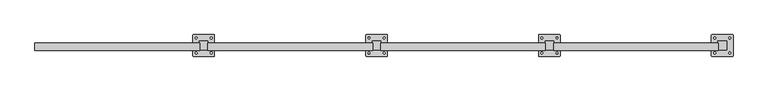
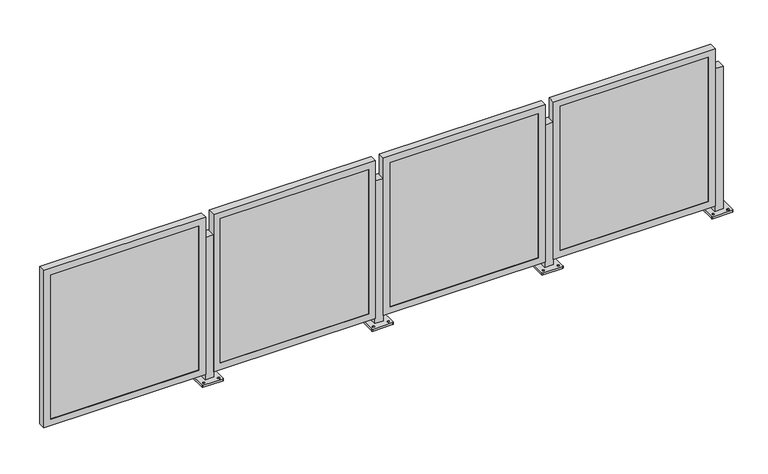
"""IFC4 building model written with IfcOpenShell, lengths in millimetres: railing geometry."""

from ifc_helpers import new_model, si_unit, frame, origin, place, context, project, spatial, polyline, circle_curve, outline, extrude, faceted_brep, source, transform, mapped, element, save
from ifc_brep_helpers import plane_surface, cylinder_surface, revolved_surface, advanced_brep


def railing_c032f412(model_context):
    return source(origin(), model_context, "Body", "SolidModel", [
        advanced_brep(
        [(-3126.5258502, -853.9049816, 914.4), (-3126.5258502, -904.7049816, 914.4), (-3075.7258502, -904.7049816, 914.4), (-3075.7258502, -853.9049816, 914.4), (-3164.6258503, -939.6299405, 0.0), (-3164.6258503, -818.9800226, 0.0), (-3161.4508222, -815.8049944, 0.0), (-3040.8008782, -815.8049944, 0.0), (-3037.62585, -818.9800226, 0.0), (-3037.62585, -939.6299405, 0.0), (-3040.8008782, -942.8049687, 0.0), (-3161.4508222, -942.8049687, 0.0), (-3145.5758377, -929.3112362, 0.0), (-3145.5758377, -918.1987238, 0.0), (-3145.5758486, -840.4112318, 0.0), (-3145.5758486, -829.2987502, 0.0), (-3056.6758368, -929.3112347, 0.0), (-3056.6758368, -918.198724, 0.0), (-3056.6758477, -840.4112303, 0.0), (-3056.6758477, -829.2987505, 0.0), (-3126.5258502, -853.9049816, 12.7), (-3126.5258502, -904.7049816, 12.7), (-3075.7258502, -904.7049816, 12.7), (-3075.7258502, -853.9049816, 12.7), (-3164.6258503, -939.6299405, 12.7), (-3161.4508222, -942.8049687, 12.7), (-3040.8008782, -942.8049687, 12.7), (-3037.62585, -939.6299405, 12.7), (-3037.62585, -818.9800226, 12.7), (-3040.8008782, -815.8049944, 12.7), (-3161.4508222, -815.8049944, 12.7), (-3164.6258503, -818.9800226, 12.7), (-3145.5758377, -929.3112362, 12.7), (-3145.5758377, -918.1987238, 12.7), (-3145.5758486, -840.4112318, 12.7), (-3145.5758486, -829.2987502, 12.7), (-3056.6758368, -929.3112347, 12.7), (-3056.6758368, -918.198724, 12.7), (-3056.6758477, -840.4112303, 12.7), (-3056.6758477, -829.2987505, 12.7)],
        [
            (0, 1),
            (1, 2),
            (2, 3),
            (3, 0),
            (4, 5),
            (5, 6, circle_curve(frame((-3161.4508222, -818.9800226, 0.0), z_axis=(0.0, 0.0, -1.0), x_axis=(0.0, 1.0, 0.0)), 3.1750282)),
            (6, 7),
            (7, 8, circle_curve(frame((-3040.8008782, -818.9800226, 0.0), z_axis=(0.0, 0.0, -1.0), x_axis=(0.0, 1.0, 0.0)), 3.1750282)),
            (8, 9),
            (9, 10, circle_curve(frame((-3040.8008782, -939.6299405, 0.0), z_axis=(0.0, 0.0, -1.0), x_axis=(0.0, 1.0, 0.0)), 3.1750282)),
            (10, 11),
            (11, 4, circle_curve(frame((-3161.4508222, -939.6299405, 0.0), z_axis=(0.0, 0.0, -1.0), x_axis=(0.0, 1.0, 0.0)), 3.1750282)),
            (12, 13, circle_curve(frame((-3145.5758377, -923.75498, 0.0), z_axis=(0.0, 0.0, 1.0), x_axis=(0.0, 1.0, 0.0)), 5.5562562)),
            (13, 12, circle_curve(frame((-3145.5758377, -923.75498, 0.0), z_axis=(0.0, 0.0, 1.0), x_axis=(0.0, 1.0, 0.0)), 5.5562562)),
            (14, 15, circle_curve(frame((-3145.5758486, -834.854991, 0.0), z_axis=(0.0, 0.0, 1.0), x_axis=(0.0, 1.0, 0.0)), 5.5562408)),
            (15, 14, circle_curve(frame((-3145.5758486, -834.854991, 0.0), z_axis=(0.0, 0.0, 1.0), x_axis=(0.0, 1.0, 0.0)), 5.5562408)),
            (16, 17, circle_curve(frame((-3056.6758368, -923.7549793, 0.0), z_axis=(0.0, 0.0, 1.0), x_axis=(0.0, 1.0, 0.0)), 5.5562553)),
            (17, 16, circle_curve(frame((-3056.6758368, -923.7549793, 0.0), z_axis=(0.0, 0.0, 1.0), x_axis=(0.0, 1.0, 0.0)), 5.5562553)),
            (18, 19, circle_curve(frame((-3056.6758477, -834.8549904, 0.0), z_axis=(0.0, 0.0, 1.0), x_axis=(0.0, 1.0, 0.0)), 5.5562399)),
            (19, 18, circle_curve(frame((-3056.6758477, -834.8549904, 0.0), z_axis=(0.0, 0.0, 1.0), x_axis=(0.0, 1.0, 0.0)), 5.5562399)),
            (0, 20),
            (20, 21),
            (21, 1),
            (21, 22),
            (22, 2),
            (22, 23),
            (23, 3),
            (23, 20),
            (24, 25, circle_curve(frame((-3161.4508222, -939.6299405, 12.7), z_axis=(0.0, 0.0, 1.0), x_axis=(0.0, 1.0, 0.0)), 3.1750282)),
            (25, 26),
            (26, 27, circle_curve(frame((-3040.8008782, -939.6299405, 12.7), z_axis=(0.0, 0.0, 1.0), x_axis=(0.0, 1.0, 0.0)), 3.1750282)),
            (27, 28),
            (28, 29, circle_curve(frame((-3040.8008782, -818.9800226, 12.7), z_axis=(0.0, 0.0, 1.0), x_axis=(0.0, 1.0, 0.0)), 3.1750282)),
            (29, 30),
            (30, 31, circle_curve(frame((-3161.4508222, -818.9800226, 12.7), z_axis=(0.0, 0.0, 1.0), x_axis=(0.0, 1.0, 0.0)), 3.1750282)),
            (31, 24),
            (32, 33, circle_curve(frame((-3145.5758377, -923.75498, 12.7), z_axis=(0.0, 0.0, -1.0), x_axis=(0.0, 1.0, 0.0)), 5.5562562)),
            (33, 32, circle_curve(frame((-3145.5758377, -923.75498, 12.7), z_axis=(0.0, 0.0, -1.0), x_axis=(0.0, 1.0, 0.0)), 5.5562562)),
            (34, 35, circle_curve(frame((-3145.5758486, -834.854991, 12.7), z_axis=(0.0, 0.0, -1.0), x_axis=(0.0, 1.0, 0.0)), 5.5562408)),
            (35, 34, circle_curve(frame((-3145.5758486, -834.854991, 12.7), z_axis=(0.0, 0.0, -1.0), x_axis=(0.0, 1.0, 0.0)), 5.5562408)),
            (36, 37, circle_curve(frame((-3056.6758368, -923.7549793, 12.7), z_axis=(0.0, 0.0, -1.0), x_axis=(0.0, 1.0, 0.0)), 5.5562553)),
            (37, 36, circle_curve(frame((-3056.6758368, -923.7549793, 12.7), z_axis=(0.0, 0.0, -1.0), x_axis=(0.0, 1.0, 0.0)), 5.5562553)),
            (38, 39, circle_curve(frame((-3056.6758477, -834.8549904, 12.7), z_axis=(0.0, 0.0, -1.0), x_axis=(0.0, 1.0, 0.0)), 5.5562399)),
            (39, 38, circle_curve(frame((-3056.6758477, -834.8549904, 12.7), z_axis=(0.0, 0.0, -1.0), x_axis=(0.0, 1.0, 0.0)), 5.5562399)),
            (24, 4),
            (11, 25),
            (10, 26),
            (9, 27),
            (8, 28),
            (7, 29),
            (6, 30),
            (5, 31),
            (32, 12),
            (13, 33),
            (34, 14),
            (15, 35),
            (36, 16),
            (17, 37),
            (38, 18),
            (19, 39),
        ],
        [
            plane_surface(frame((-3126.5258502, -904.7049816, 914.4), z_axis=(0.0, 0.0, 1.0), x_axis=(0.0, -1.0, 0.0))),
            plane_surface(frame((-3126.5258502, -904.7049816, 0.0), z_axis=(0.0, 0.0, -1.0), x_axis=(0.0, 1.0, 0.0))),
            plane_surface(frame((-3126.5258502, -853.9049816, 914.4), z_axis=(-1.0, 0.0, 0.0), x_axis=(0.0, 0.0, -1.0))),
            plane_surface(frame((-3126.5258502, -904.7049816, 914.4), z_axis=(0.0, -1.0, 0.0), x_axis=(0.0, 0.0, -1.0))),
            plane_surface(frame((-3075.7258502, -904.7049816, 914.4), z_axis=(1.0, 0.0, 0.0), x_axis=(0.0, 0.0, -1.0))),
            plane_surface(frame((-3075.7258502, -853.9049816, 914.4), z_axis=(0.0, 1.0, 0.0), x_axis=(0.0, 0.0, -1.0))),
            plane_surface(frame((-3161.4508222, -936.4549124, 12.7), z_axis=(0.0, 0.0, 1.0), x_axis=(-1.0, 0.0, 0.0))),
            cylinder_surface(frame((-3161.4508222, -939.6299405, 0.0), z_axis=(0.0, 0.0, 1.0), x_axis=(0.0, 1.0, 0.0)), 3.1750282),
            plane_surface(frame((-3161.4508222, -942.8049687, 12.7), z_axis=(1.1945386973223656e-12, -1.0, 0.0), x_axis=(0.0, 0.0, -1.0))),
            cylinder_surface(frame((-3040.8008782, -939.6299405, 0.0), z_axis=(0.0, 0.0, 1.0), x_axis=(0.0, 1.0, 0.0)), 3.1750282),
            plane_surface(frame((-3037.62585, -939.6299405, 12.7), z_axis=(1.0, 0.0, 0.0), x_axis=(0.0, 0.0, -1.0))),
            cylinder_surface(frame((-3040.8008782, -818.9800226, 0.0), z_axis=(0.0, 0.0, 1.0), x_axis=(0.0, 1.0, 0.0)), 3.1750282),
            plane_surface(frame((-3040.8008782, -815.8049944, 12.7), z_axis=(-1.1946088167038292e-12, 1.0, 0.0), x_axis=(0.0, 0.0, -1.0))),
            cylinder_surface(frame((-3161.4508222, -818.9800226, 0.0), z_axis=(0.0, 0.0, 1.0), x_axis=(0.0, 1.0, 0.0)), 3.1750282),
            plane_surface(frame((-3164.6258503, -818.9800226, 12.7), z_axis=(-1.0, 0.0, 0.0), x_axis=(0.0, 0.0, -1.0))),
            revolved_surface(polyline([(-3145.5758377, -918.1987238, 0.0), (-3145.5758377, -918.1987238, 12.7)]), (-3145.5758377, -923.75498, 0.0), (0.0, 0.0, -1.0)),
            revolved_surface(polyline([(-3145.5758486, -829.2987502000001, 0.0), (-3145.5758486, -829.2987502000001, 12.7)]), (-3145.5758486, -834.854991, 0.0), (0.0, 0.0, -1.0)),
            revolved_surface(polyline([(-3056.6758368, -918.198724, 0.0), (-3056.6758368, -918.198724, 12.7)]), (-3056.6758368, -923.7549793, 0.0), (0.0, 0.0, -1.0)),
            revolved_surface(polyline([(-3056.6758477, -829.2987505, 0.0), (-3056.6758477, -829.2987505, 12.7)]), (-3056.6758477, -834.8549904, 0.0), (0.0, 0.0, -1.0)),
        ],
        [
            (0, [[1, 2, 3, 4]]),
            (1, [[5, 6, 7, 8, 9, 10, 11, 12], [13, 14], [15, 16], [17, 18], [19, 20]]),
            (2, [[-1, 21, 22, 23]]),
            (3, [[-2, -23, 24, 25]]),
            (4, [[-3, -25, 26, 27]]),
            (5, [[-4, -27, 28, -21]]),
            (6, [[29, 30, 31, 32, 33, 34, 35, 36], [-22, -28, -26, -24], [37, 38], [39, 40], [41, 42], [43, 44]]),
            (7, [[-29, 45, -12, 46]]),
            (8, [[-30, -46, -11, 47]]),
            (9, [[-31, -47, -10, 48]]),
            (10, [[-32, -48, -9, 49]]),
            (11, [[-33, -49, -8, 50]]),
            (12, [[-34, -50, -7, 51]]),
            (13, [[-35, -51, -6, 52]]),
            (14, [[-36, -52, -5, -45]]),
            (15, [[-37, 53, -14, 54]]),
            (15, [[-38, -54, -13, -53]]),
            (16, [[-39, 55, -16, 56]]),
            (16, [[-40, -56, -15, -55]]),
            (17, [[-41, 57, -18, 58]]),
            (17, [[-42, -58, -17, -57]]),
            (18, [[-43, 59, -20, 60]]),
            (18, [[-44, -60, -19, -59]]),
        ],
    ),
        faceted_brep([(-4092.9303036, -907.4481816, 47.625), (-3124.5553036, -907.4481816, 47.625), (-3124.5553036, -907.4481816, 1044.575), (-4092.9303036, -907.4481816, 1044.575), (-4051.6553036, -907.4481816, 1003.3), (-3165.8303036, -907.4481816, 1003.3), (-3165.8303036, -907.4481816, 88.9), (-4051.6553036, -907.4481816, 88.9), (-4051.6553036, -904.7049816, 1003.3), (-4051.6553036, -904.7049816, 88.9), (-4092.9303036, -863.574885, 1044.575), (-4092.9303036, -863.574885, 47.625), (-4089.7553036, -863.574885, 1041.4), (-4089.7553036, -904.7049816, 1041.4), (-4089.7553036, -904.7049816, 50.8), (-4089.7553036, -863.574885, 50.8), (-3165.8303036, -904.7049816, 88.9), (-3124.5553036, -863.574885, 47.625), (-3127.7303036, -904.7049816, 50.8), (-3127.7303036, -863.574885, 50.8), (-3165.8303036, -904.7049816, 1003.3), (-3124.5553036, -863.574885, 1044.575), (-3127.7303036, -904.7049816, 1041.4), (-3127.7303036, -863.574885, 1041.4)], [[[0, 1, 2, 3], [4, 5, 6, 7]], [[8, 4, 7, 9]], [[3, 10, 11, 0]], [[12, 13, 14, 15]], [[9, 7, 6, 16]], [[0, 11, 17, 1]], [[15, 14, 18, 19]], [[16, 6, 5, 20]], [[1, 17, 21, 2]], [[19, 18, 22, 23]], [[20, 5, 4, 8]], [[10, 21, 17, 11], [15, 19, 23, 12]], [[2, 21, 10, 3]], [[13, 22, 18, 14], [9, 16, 20, 8]], [[23, 22, 13, 12]]]),
        extrude(outline(polyline([(-4089.7553036, -895.1799816), (-3127.7303036, -895.1799816), (-3127.7303036, -904.7049816), (-4089.7553036, -904.7049816), (-4089.7553036, -895.1799816)])), frame((0.0, 0.0, 50.8), z_axis=(0.0, 0.0, 1.0), x_axis=(1.0, 0.0, 0.0)), (0.0, 0.0, 1.0), 990.6),
        advanced_brep(
        [(-4142.5258502, -853.9049816, 914.4), (-4142.5258502, -904.7049816, 914.4), (-4091.7258502, -904.7049816, 914.4), (-4091.7258502, -853.9049816, 914.4), (-4180.6258503, -939.6299405, 0.0), (-4180.6258503, -818.9800226, 0.0), (-4177.4508222, -815.8049944, 0.0), (-4056.8008782, -815.8049944, 0.0), (-4053.62585, -818.9800226, 0.0), (-4053.62585, -939.6299405, 0.0), (-4056.8008782, -942.8049687, 0.0), (-4177.4508222, -942.8049687, 0.0), (-4161.5758377, -929.3112362, 0.0), (-4161.5758377, -918.1987238, 0.0), (-4161.5758486, -840.4112318, 0.0), (-4161.5758486, -829.2987502, 0.0), (-4072.6758368, -929.3112347, 0.0), (-4072.6758368, -918.198724, 0.0), (-4072.6758477, -840.4112303, 0.0), (-4072.6758477, -829.2987505, 0.0), (-4142.5258502, -853.9049816, 12.7), (-4142.5258502, -904.7049816, 12.7), (-4091.7258502, -904.7049816, 12.7), (-4091.7258502, -853.9049816, 12.7), (-4180.6258503, -939.6299405, 12.7), (-4177.4508222, -942.8049687, 12.7), (-4056.8008782, -942.8049687, 12.7), (-4053.62585, -939.6299405, 12.7), (-4053.62585, -818.9800226, 12.7), (-4056.8008782, -815.8049944, 12.7), (-4177.4508222, -815.8049944, 12.7), (-4180.6258503, -818.9800226, 12.7), (-4161.5758377, -929.3112362, 12.7), (-4161.5758377, -918.1987238, 12.7), (-4161.5758486, -840.4112318, 12.7), (-4161.5758486, -829.2987502, 12.7), (-4072.6758368, -929.3112347, 12.7), (-4072.6758368, -918.198724, 12.7), (-4072.6758477, -840.4112303, 12.7), (-4072.6758477, -829.2987505, 12.7)],
        [
            (0, 1),
            (1, 2),
            (2, 3),
            (3, 0),
            (4, 5),
            (5, 6, circle_curve(frame((-4177.4508222, -818.9800226, 0.0), z_axis=(0.0, 0.0, -1.0), x_axis=(0.0, 1.0, 0.0)), 3.1750282)),
            (6, 7),
            (7, 8, circle_curve(frame((-4056.8008782, -818.9800226, 0.0), z_axis=(0.0, 0.0, -1.0), x_axis=(0.0, 1.0, 0.0)), 3.1750282)),
            (8, 9),
            (9, 10, circle_curve(frame((-4056.8008782, -939.6299405, 0.0), z_axis=(0.0, 0.0, -1.0), x_axis=(0.0, 1.0, 0.0)), 3.1750282)),
            (10, 11),
            (11, 4, circle_curve(frame((-4177.4508222, -939.6299405, 0.0), z_axis=(0.0, 0.0, -1.0), x_axis=(0.0, 1.0, 0.0)), 3.1750282)),
            (12, 13, circle_curve(frame((-4161.5758377, -923.75498, 0.0), z_axis=(0.0, 0.0, 1.0), x_axis=(0.0, 1.0, 0.0)), 5.5562562)),
            (13, 12, circle_curve(frame((-4161.5758377, -923.75498, 0.0), z_axis=(0.0, 0.0, 1.0), x_axis=(0.0, 1.0, 0.0)), 5.5562562)),
            (14, 15, circle_curve(frame((-4161.5758486, -834.854991, 0.0), z_axis=(0.0, 0.0, 1.0), x_axis=(0.0, 1.0, 0.0)), 5.5562408)),
            (15, 14, circle_curve(frame((-4161.5758486, -834.854991, 0.0), z_axis=(0.0, 0.0, 1.0), x_axis=(0.0, 1.0, 0.0)), 5.5562408)),
            (16, 17, circle_curve(frame((-4072.6758368, -923.7549793, 0.0), z_axis=(0.0, 0.0, 1.0), x_axis=(0.0, 1.0, 0.0)), 5.5562553)),
            (17, 16, circle_curve(frame((-4072.6758368, -923.7549793, 0.0), z_axis=(0.0, 0.0, 1.0), x_axis=(0.0, 1.0, 0.0)), 5.5562553)),
            (18, 19, circle_curve(frame((-4072.6758477, -834.8549904, 0.0), z_axis=(0.0, 0.0, 1.0), x_axis=(0.0, 1.0, 0.0)), 5.5562399)),
            (19, 18, circle_curve(frame((-4072.6758477, -834.8549904, 0.0), z_axis=(0.0, 0.0, 1.0), x_axis=(0.0, 1.0, 0.0)), 5.5562399)),
            (0, 20),
            (20, 21),
            (21, 1),
            (21, 22),
            (22, 2),
            (22, 23),
            (23, 3),
            (23, 20),
            (24, 25, circle_curve(frame((-4177.4508222, -939.6299405, 12.7), z_axis=(0.0, 0.0, 1.0), x_axis=(0.0, 1.0, 0.0)), 3.1750282)),
            (25, 26),
            (26, 27, circle_curve(frame((-4056.8008782, -939.6299405, 12.7), z_axis=(0.0, 0.0, 1.0), x_axis=(0.0, 1.0, 0.0)), 3.1750282)),
            (27, 28),
            (28, 29, circle_curve(frame((-4056.8008782, -818.9800226, 12.7), z_axis=(0.0, 0.0, 1.0), x_axis=(0.0, 1.0, 0.0)), 3.1750282)),
            (29, 30),
            (30, 31, circle_curve(frame((-4177.4508222, -818.9800226, 12.7), z_axis=(0.0, 0.0, 1.0), x_axis=(0.0, 1.0, 0.0)), 3.1750282)),
            (31, 24),
            (32, 33, circle_curve(frame((-4161.5758377, -923.75498, 12.7), z_axis=(0.0, 0.0, -1.0), x_axis=(0.0, 1.0, 0.0)), 5.5562562)),
            (33, 32, circle_curve(frame((-4161.5758377, -923.75498, 12.7), z_axis=(0.0, 0.0, -1.0), x_axis=(0.0, 1.0, 0.0)), 5.5562562)),
            (34, 35, circle_curve(frame((-4161.5758486, -834.854991, 12.7), z_axis=(0.0, 0.0, -1.0), x_axis=(0.0, 1.0, 0.0)), 5.5562408)),
            (35, 34, circle_curve(frame((-4161.5758486, -834.854991, 12.7), z_axis=(0.0, 0.0, -1.0), x_axis=(0.0, 1.0, 0.0)), 5.5562408)),
            (36, 37, circle_curve(frame((-4072.6758368, -923.7549793, 12.7), z_axis=(0.0, 0.0, -1.0), x_axis=(0.0, 1.0, 0.0)), 5.5562553)),
            (37, 36, circle_curve(frame((-4072.6758368, -923.7549793, 12.7), z_axis=(0.0, 0.0, -1.0), x_axis=(0.0, 1.0, 0.0)), 5.5562553)),
            (38, 39, circle_curve(frame((-4072.6758477, -834.8549904, 12.7), z_axis=(0.0, 0.0, -1.0), x_axis=(0.0, 1.0, 0.0)), 5.5562399)),
            (39, 38, circle_curve(frame((-4072.6758477, -834.8549904, 12.7), z_axis=(0.0, 0.0, -1.0), x_axis=(0.0, 1.0, 0.0)), 5.5562399)),
            (24, 4),
            (11, 25),
            (10, 26),
            (9, 27),
            (8, 28),
            (7, 29),
            (6, 30),
            (5, 31),
            (32, 12),
            (13, 33),
            (34, 14),
            (15, 35),
            (36, 16),
            (17, 37),
            (38, 18),
            (19, 39),
        ],
        [
            plane_surface(frame((-4142.5258502, -904.7049816, 914.4), z_axis=(0.0, 0.0, 1.0), x_axis=(0.0, -1.0, 0.0))),
            plane_surface(frame((-4142.5258502, -904.7049816, 0.0), z_axis=(0.0, 0.0, -1.0), x_axis=(0.0, 1.0, 0.0))),
            plane_surface(frame((-4142.5258502, -853.9049816, 914.4), z_axis=(-1.0, 0.0, 0.0), x_axis=(0.0, 0.0, -1.0))),
            plane_surface(frame((-4142.5258502, -904.7049816, 914.4), z_axis=(0.0, -1.0, 0.0), x_axis=(0.0, 0.0, -1.0))),
            plane_surface(frame((-4091.7258502, -904.7049816, 914.4), z_axis=(1.0, 0.0, 0.0), x_axis=(0.0, 0.0, -1.0))),
            plane_surface(frame((-4091.7258502, -853.9049816, 914.4), z_axis=(0.0, 1.0, 0.0), x_axis=(0.0, 0.0, -1.0))),
            plane_surface(frame((-4177.4508222, -936.4549124, 12.7), z_axis=(0.0, 0.0, 1.0), x_axis=(-1.0, 0.0, 0.0))),
            cylinder_surface(frame((-4177.4508222, -939.6299405, 0.0), z_axis=(0.0, 0.0, 1.0), x_axis=(0.0, 1.0, 0.0)), 3.1750282),
            plane_surface(frame((-4177.4508222, -942.8049687, 12.7), z_axis=(1.1945386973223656e-12, -1.0, 0.0), x_axis=(0.0, 0.0, -1.0))),
            cylinder_surface(frame((-4056.8008782, -939.6299405, 0.0), z_axis=(0.0, 0.0, 1.0), x_axis=(0.0, 1.0, 0.0)), 3.1750282),
            plane_surface(frame((-4053.62585, -939.6299405, 12.7), z_axis=(1.0, 0.0, 0.0), x_axis=(0.0, 0.0, -1.0))),
            cylinder_surface(frame((-4056.8008782, -818.9800226, 0.0), z_axis=(0.0, 0.0, 1.0), x_axis=(0.0, 1.0, 0.0)), 3.1750282),
            plane_surface(frame((-4056.8008782, -815.8049944, 12.7), z_axis=(-1.1946088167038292e-12, 1.0, 0.0), x_axis=(0.0, 0.0, -1.0))),
            cylinder_surface(frame((-4177.4508222, -818.9800226, 0.0), z_axis=(0.0, 0.0, 1.0), x_axis=(0.0, 1.0, 0.0)), 3.1750282),
            plane_surface(frame((-4180.6258503, -818.9800226, 12.7), z_axis=(-1.0, 0.0, 0.0), x_axis=(0.0, 0.0, -1.0))),
            revolved_surface(polyline([(-4161.5758377, -918.1987238, 0.0), (-4161.5758377, -918.1987238, 12.7)]), (-4161.5758377, -923.75498, 0.0), (0.0, 0.0, -1.0)),
            revolved_surface(polyline([(-4161.5758486, -829.2987502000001, 0.0), (-4161.5758486, -829.2987502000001, 12.7)]), (-4161.5758486, -834.854991, 0.0), (0.0, 0.0, -1.0)),
            revolved_surface(polyline([(-4072.6758368, -918.198724, 0.0), (-4072.6758368, -918.198724, 12.7)]), (-4072.6758368, -923.7549793, 0.0), (0.0, 0.0, -1.0)),
            revolved_surface(polyline([(-4072.6758477, -829.2987505, 0.0), (-4072.6758477, -829.2987505, 12.7)]), (-4072.6758477, -834.8549904, 0.0), (0.0, 0.0, -1.0)),
        ],
        [
            (0, [[1, 2, 3, 4]]),
            (1, [[5, 6, 7, 8, 9, 10, 11, 12], [13, 14], [15, 16], [17, 18], [19, 20]]),
            (2, [[-1, 21, 22, 23]]),
            (3, [[-2, -23, 24, 25]]),
            (4, [[-3, -25, 26, 27]]),
            (5, [[-4, -27, 28, -21]]),
            (6, [[29, 30, 31, 32, 33, 34, 35, 36], [-22, -28, -26, -24], [37, 38], [39, 40], [41, 42], [43, 44]]),
            (7, [[-29, 45, -12, 46]]),
            (8, [[-30, -46, -11, 47]]),
            (9, [[-31, -47, -10, 48]]),
            (10, [[-32, -48, -9, 49]]),
            (11, [[-33, -49, -8, 50]]),
            (12, [[-34, -50, -7, 51]]),
            (13, [[-35, -51, -6, 52]]),
            (14, [[-36, -52, -5, -45]]),
            (15, [[-37, 53, -14, 54]]),
            (15, [[-38, -54, -13, -53]]),
            (16, [[-39, 55, -16, 56]]),
            (16, [[-40, -56, -15, -55]]),
            (17, [[-41, 57, -18, 58]]),
            (17, [[-42, -58, -17, -57]]),
            (18, [[-43, 59, -20, 60]]),
            (18, [[-44, -60, -19, -59]]),
        ],
    ),
        faceted_brep([(-5108.9303036, -907.4481816, 47.625), (-4140.5553036, -907.4481816, 47.625), (-4140.5553036, -907.4481816, 1044.575), (-5108.9303036, -907.4481816, 1044.575), (-5067.6553036, -907.4481816, 1003.3), (-4181.8303036, -907.4481816, 1003.3), (-4181.8303036, -907.4481816, 88.9), (-5067.6553036, -907.4481816, 88.9), (-5067.6553036, -904.7049816, 1003.3), (-5067.6553036, -904.7049816, 88.9), (-5108.9303036, -863.574885, 1044.575), (-5108.9303036, -863.574885, 47.625), (-5105.7553036, -863.574885, 1041.4), (-5105.7553036, -904.7049816, 1041.4), (-5105.7553036, -904.7049816, 50.8), (-5105.7553036, -863.574885, 50.8), (-4181.8303036, -904.7049816, 88.9), (-4140.5553036, -863.574885, 47.625), (-4143.7303036, -904.7049816, 50.8), (-4143.7303036, -863.574885, 50.8), (-4181.8303036, -904.7049816, 1003.3), (-4140.5553036, -863.574885, 1044.575), (-4143.7303036, -904.7049816, 1041.4), (-4143.7303036, -863.574885, 1041.4)], [[[0, 1, 2, 3], [4, 5, 6, 7]], [[8, 4, 7, 9]], [[3, 10, 11, 0]], [[12, 13, 14, 15]], [[9, 7, 6, 16]], [[0, 11, 17, 1]], [[15, 14, 18, 19]], [[16, 6, 5, 20]], [[1, 17, 21, 2]], [[19, 18, 22, 23]], [[20, 5, 4, 8]], [[10, 21, 17, 11], [15, 19, 23, 12]], [[2, 21, 10, 3]], [[13, 22, 18, 14], [9, 16, 20, 8]], [[23, 22, 13, 12]]]),
        extrude(outline(polyline([(-5105.7553036, -895.1799816), (-4143.7303036, -895.1799816), (-4143.7303036, -904.7049816), (-5105.7553036, -904.7049816), (-5105.7553036, -895.1799816)])), frame((0.0, 0.0, 50.8), z_axis=(0.0, 0.0, 1.0), x_axis=(1.0, 0.0, 0.0)), (0.0, 0.0, 1.0), 990.6),
        advanced_brep(
        [(-5158.5258502, -853.9049816, 914.4), (-5158.5258502, -904.7049816, 914.4), (-5107.7258502, -904.7049816, 914.4), (-5107.7258502, -853.9049816, 914.4), (-5196.6258503, -939.6299405, 0.0), (-5196.6258503, -818.9800226, 0.0), (-5193.4508222, -815.8049944, 0.0), (-5072.8008782, -815.8049944, 0.0), (-5069.62585, -818.9800226, 0.0), (-5069.62585, -939.6299405, 0.0), (-5072.8008782, -942.8049687, 0.0), (-5193.4508222, -942.8049687, 0.0), (-5177.5758377, -929.3112362, 0.0), (-5177.5758377, -918.1987238, 0.0), (-5177.5758486, -840.4112318, 0.0), (-5177.5758486, -829.2987502, 0.0), (-5088.6758368, -929.3112347, 0.0), (-5088.6758368, -918.198724, 0.0), (-5088.6758477, -840.4112303, 0.0), (-5088.6758477, -829.2987505, 0.0), (-5158.5258502, -853.9049816, 12.7), (-5158.5258502, -904.7049816, 12.7), (-5107.7258502, -904.7049816, 12.7), (-5107.7258502, -853.9049816, 12.7), (-5196.6258503, -939.6299405, 12.7), (-5193.4508222, -942.8049687, 12.7), (-5072.8008782, -942.8049687, 12.7), (-5069.62585, -939.6299405, 12.7), (-5069.62585, -818.9800226, 12.7), (-5072.8008782, -815.8049944, 12.7), (-5193.4508222, -815.8049944, 12.7), (-5196.6258503, -818.9800226, 12.7), (-5177.5758377, -929.3112362, 12.7), (-5177.5758377, -918.1987238, 12.7), (-5177.5758486, -840.4112318, 12.7), (-5177.5758486, -829.2987502, 12.7), (-5088.6758368, -929.3112347, 12.7), (-5088.6758368, -918.198724, 12.7), (-5088.6758477, -840.4112303, 12.7), (-5088.6758477, -829.2987505, 12.7)],
        [
            (0, 1),
            (1, 2),
            (2, 3),
            (3, 0),
            (4, 5),
            (5, 6, circle_curve(frame((-5193.4508222, -818.9800226, 0.0), z_axis=(0.0, 0.0, -1.0), x_axis=(0.0, 1.0, 0.0)), 3.1750282)),
            (6, 7),
            (7, 8, circle_curve(frame((-5072.8008782, -818.9800226, 0.0), z_axis=(0.0, 0.0, -1.0), x_axis=(0.0, 1.0, 0.0)), 3.1750282)),
            (8, 9),
            (9, 10, circle_curve(frame((-5072.8008782, -939.6299405, 0.0), z_axis=(0.0, 0.0, -1.0), x_axis=(0.0, 1.0, 0.0)), 3.1750282)),
            (10, 11),
            (11, 4, circle_curve(frame((-5193.4508222, -939.6299405, 0.0), z_axis=(0.0, 0.0, -1.0), x_axis=(0.0, 1.0, 0.0)), 3.1750282)),
            (12, 13, circle_curve(frame((-5177.5758377, -923.75498, 0.0), z_axis=(0.0, 0.0, 1.0), x_axis=(0.0, 1.0, 0.0)), 5.5562562)),
            (13, 12, circle_curve(frame((-5177.5758377, -923.75498, 0.0), z_axis=(0.0, 0.0, 1.0), x_axis=(0.0, 1.0, 0.0)), 5.5562562)),
            (14, 15, circle_curve(frame((-5177.5758486, -834.854991, 0.0), z_axis=(0.0, 0.0, 1.0), x_axis=(0.0, 1.0, 0.0)), 5.5562408)),
            (15, 14, circle_curve(frame((-5177.5758486, -834.854991, 0.0), z_axis=(0.0, 0.0, 1.0), x_axis=(0.0, 1.0, 0.0)), 5.5562408)),
            (16, 17, circle_curve(frame((-5088.6758368, -923.7549793, 0.0), z_axis=(0.0, 0.0, 1.0), x_axis=(0.0, 1.0, 0.0)), 5.5562553)),
            (17, 16, circle_curve(frame((-5088.6758368, -923.7549793, 0.0), z_axis=(0.0, 0.0, 1.0), x_axis=(0.0, 1.0, 0.0)), 5.5562553)),
            (18, 19, circle_curve(frame((-5088.6758477, -834.8549904, 0.0), z_axis=(0.0, 0.0, 1.0), x_axis=(0.0, 1.0, 0.0)), 5.5562399)),
            (19, 18, circle_curve(frame((-5088.6758477, -834.8549904, 0.0), z_axis=(0.0, 0.0, 1.0), x_axis=(0.0, 1.0, 0.0)), 5.5562399)),
            (0, 20),
            (20, 21),
            (21, 1),
            (21, 22),
            (22, 2),
            (22, 23),
            (23, 3),
            (23, 20),
            (24, 25, circle_curve(frame((-5193.4508222, -939.6299405, 12.7), z_axis=(0.0, 0.0, 1.0), x_axis=(0.0, 1.0, 0.0)), 3.1750282)),
            (25, 26),
            (26, 27, circle_curve(frame((-5072.8008782, -939.6299405, 12.7), z_axis=(0.0, 0.0, 1.0), x_axis=(0.0, 1.0, 0.0)), 3.1750282)),
            (27, 28),
            (28, 29, circle_curve(frame((-5072.8008782, -818.9800226, 12.7), z_axis=(0.0, 0.0, 1.0), x_axis=(0.0, 1.0, 0.0)), 3.1750282)),
            (29, 30),
            (30, 31, circle_curve(frame((-5193.4508222, -818.9800226, 12.7), z_axis=(0.0, 0.0, 1.0), x_axis=(0.0, 1.0, 0.0)), 3.1750282)),
            (31, 24),
            (32, 33, circle_curve(frame((-5177.5758377, -923.75498, 12.7), z_axis=(0.0, 0.0, -1.0), x_axis=(0.0, 1.0, 0.0)), 5.5562562)),
            (33, 32, circle_curve(frame((-5177.5758377, -923.75498, 12.7), z_axis=(0.0, 0.0, -1.0), x_axis=(0.0, 1.0, 0.0)), 5.5562562)),
            (34, 35, circle_curve(frame((-5177.5758486, -834.854991, 12.7), z_axis=(0.0, 0.0, -1.0), x_axis=(0.0, 1.0, 0.0)), 5.5562408)),
            (35, 34, circle_curve(frame((-5177.5758486, -834.854991, 12.7), z_axis=(0.0, 0.0, -1.0), x_axis=(0.0, 1.0, 0.0)), 5.5562408)),
            (36, 37, circle_curve(frame((-5088.6758368, -923.7549793, 12.7), z_axis=(0.0, 0.0, -1.0), x_axis=(0.0, 1.0, 0.0)), 5.5562553)),
            (37, 36, circle_curve(frame((-5088.6758368, -923.7549793, 12.7), z_axis=(0.0, 0.0, -1.0), x_axis=(0.0, 1.0, 0.0)), 5.5562553)),
            (38, 39, circle_curve(frame((-5088.6758477, -834.8549904, 12.7), z_axis=(0.0, 0.0, -1.0), x_axis=(0.0, 1.0, 0.0)), 5.5562399)),
            (39, 38, circle_curve(frame((-5088.6758477, -834.8549904, 12.7), z_axis=(0.0, 0.0, -1.0), x_axis=(0.0, 1.0, 0.0)), 5.5562399)),
            (24, 4),
            (11, 25),
            (10, 26),
            (9, 27),
            (8, 28),
            (7, 29),
            (6, 30),
            (5, 31),
            (32, 12),
            (13, 33),
            (34, 14),
            (15, 35),
            (36, 16),
            (17, 37),
            (38, 18),
            (19, 39),
        ],
        [
            plane_surface(frame((-5158.5258502, -904.7049816, 914.4), z_axis=(0.0, 0.0, 1.0), x_axis=(0.0, -1.0, 0.0))),
            plane_surface(frame((-5158.5258502, -904.7049816, 0.0), z_axis=(0.0, 0.0, -1.0), x_axis=(0.0, 1.0, 0.0))),
            plane_surface(frame((-5158.5258502, -853.9049816, 914.4), z_axis=(-1.0, 0.0, 0.0), x_axis=(0.0, 0.0, -1.0))),
            plane_surface(frame((-5158.5258502, -904.7049816, 914.4), z_axis=(0.0, -1.0, 0.0), x_axis=(0.0, 0.0, -1.0))),
            plane_surface(frame((-5107.7258502, -904.7049816, 914.4), z_axis=(1.0, 0.0, 0.0), x_axis=(0.0, 0.0, -1.0))),
            plane_surface(frame((-5107.7258502, -853.9049816, 914.4), z_axis=(0.0, 1.0, 0.0), x_axis=(0.0, 0.0, -1.0))),
            plane_surface(frame((-5193.4508222, -936.4549124, 12.7), z_axis=(0.0, 0.0, 1.0), x_axis=(-1.0, 0.0, 0.0))),
            cylinder_surface(frame((-5193.4508222, -939.6299405, 0.0), z_axis=(0.0, 0.0, 1.0), x_axis=(0.0, 1.0, 0.0)), 3.1750282),
            plane_surface(frame((-5193.4508222, -942.8049687, 12.7), z_axis=(1.1945386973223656e-12, -1.0, 0.0), x_axis=(0.0, 0.0, -1.0))),
            cylinder_surface(frame((-5072.8008782, -939.6299405, 0.0), z_axis=(0.0, 0.0, 1.0), x_axis=(0.0, 1.0, 0.0)), 3.1750282),
            plane_surface(frame((-5069.62585, -939.6299405, 12.7), z_axis=(1.0, 0.0, 0.0), x_axis=(0.0, 0.0, -1.0))),
            cylinder_surface(frame((-5072.8008782, -818.9800226, 0.0), z_axis=(0.0, 0.0, 1.0), x_axis=(0.0, 1.0, 0.0)), 3.1750282),
            plane_surface(frame((-5072.8008782, -815.8049944, 12.7), z_axis=(-1.1946088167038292e-12, 1.0, 0.0), x_axis=(0.0, 0.0, -1.0))),
            cylinder_surface(frame((-5193.4508222, -818.9800226, 0.0), z_axis=(0.0, 0.0, 1.0), x_axis=(0.0, 1.0, 0.0)), 3.1750282),
            plane_surface(frame((-5196.6258503, -818.9800226, 12.7), z_axis=(-1.0, 0.0, 0.0), x_axis=(0.0, 0.0, -1.0))),
            revolved_surface(polyline([(-5177.5758377, -918.1987238, 0.0), (-5177.5758377, -918.1987238, 12.7)]), (-5177.5758377, -923.75498, 0.0), (0.0, 0.0, -1.0)),
            revolved_surface(polyline([(-5177.5758486, -829.2987502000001, 0.0), (-5177.5758486, -829.2987502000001, 12.7)]), (-5177.5758486, -834.854991, 0.0), (0.0, 0.0, -1.0)),
            revolved_surface(polyline([(-5088.6758368, -918.198724, 0.0), (-5088.6758368, -918.198724, 12.7)]), (-5088.6758368, -923.7549793, 0.0), (0.0, 0.0, -1.0)),
            revolved_surface(polyline([(-5088.6758477, -829.2987505, 0.0), (-5088.6758477, -829.2987505, 12.7)]), (-5088.6758477, -834.8549904, 0.0), (0.0, 0.0, -1.0)),
        ],
        [
            (0, [[1, 2, 3, 4]]),
            (1, [[5, 6, 7, 8, 9, 10, 11, 12], [13, 14], [15, 16], [17, 18], [19, 20]]),
            (2, [[-1, 21, 22, 23]]),
            (3, [[-2, -23, 24, 25]]),
            (4, [[-3, -25, 26, 27]]),
            (5, [[-4, -27, 28, -21]]),
            (6, [[29, 30, 31, 32, 33, 34, 35, 36], [-22, -28, -26, -24], [37, 38], [39, 40], [41, 42], [43, 44]]),
            (7, [[-29, 45, -12, 46]]),
            (8, [[-30, -46, -11, 47]]),
            (9, [[-31, -47, -10, 48]]),
            (10, [[-32, -48, -9, 49]]),
            (11, [[-33, -49, -8, 50]]),
            (12, [[-34, -50, -7, 51]]),
            (13, [[-35, -51, -6, 52]]),
            (14, [[-36, -52, -5, -45]]),
            (15, [[-37, 53, -14, 54]]),
            (15, [[-38, -54, -13, -53]]),
            (16, [[-39, 55, -16, 56]]),
            (16, [[-40, -56, -15, -55]]),
            (17, [[-41, 57, -18, 58]]),
            (17, [[-42, -58, -17, -57]]),
            (18, [[-43, 59, -20, 60]]),
            (18, [[-44, -60, -19, -59]]),
        ],
    ),
        faceted_brep([(-6124.9303036, -907.4481816, 47.625), (-5156.5553036, -907.4481816, 47.625), (-5156.5553036, -907.4481816, 1044.575), (-6124.9303036, -907.4481816, 1044.575), (-6083.6553036, -907.4481816, 1003.3), (-5197.8303036, -907.4481816, 1003.3), (-5197.8303036, -907.4481816, 88.9), (-6083.6553036, -907.4481816, 88.9), (-6083.6553036, -904.7049816, 1003.3), (-6083.6553036, -904.7049816, 88.9), (-6124.9303036, -863.574885, 1044.575), (-6124.9303036, -863.574885, 47.625), (-6121.7553036, -863.574885, 1041.4), (-6121.7553036, -904.7049816, 1041.4), (-6121.7553036, -904.7049816, 50.8), (-6121.7553036, -863.574885, 50.8), (-5197.8303036, -904.7049816, 88.9), (-5156.5553036, -863.574885, 47.625), (-5159.7303036, -904.7049816, 50.8), (-5159.7303036, -863.574885, 50.8), (-5197.8303036, -904.7049816, 1003.3), (-5156.5553036, -863.574885, 1044.575), (-5159.7303036, -904.7049816, 1041.4), (-5159.7303036, -863.574885, 1041.4)], [[[0, 1, 2, 3], [4, 5, 6, 7]], [[8, 4, 7, 9]], [[3, 10, 11, 0]], [[12, 13, 14, 15]], [[9, 7, 6, 16]], [[0, 11, 17, 1]], [[15, 14, 18, 19]], [[16, 6, 5, 20]], [[1, 17, 21, 2]], [[19, 18, 22, 23]], [[20, 5, 4, 8]], [[10, 21, 17, 11], [15, 19, 23, 12]], [[2, 21, 10, 3]], [[13, 22, 18, 14], [9, 16, 20, 8]], [[23, 22, 13, 12]]]),
        extrude(outline(polyline([(-6121.7553036, -895.1799816), (-5159.7303036, -895.1799816), (-5159.7303036, -904.7049816), (-6121.7553036, -904.7049816), (-6121.7553036, -895.1799816)])), frame((0.0, 0.0, 50.8), z_axis=(0.0, 0.0, 1.0), x_axis=(1.0, 0.0, 0.0)), (0.0, 0.0, 1.0), 990.6),
        advanced_brep(
        [(-6174.5258502, -853.9049816, 914.4), (-6174.5258502, -904.7049816, 914.4), (-6123.7258502, -904.7049816, 914.4), (-6123.7258502, -853.9049816, 914.4), (-6212.6258503, -939.6299405, 0.0), (-6212.6258503, -818.9800226, 0.0), (-6209.4508222, -815.8049944, 0.0), (-6088.8008782, -815.8049944, 0.0), (-6085.62585, -818.9800226, 0.0), (-6085.62585, -939.6299405, 0.0), (-6088.8008782, -942.8049687, 0.0), (-6209.4508222, -942.8049687, 0.0), (-6193.5758377, -929.3112362, 0.0), (-6193.5758377, -918.1987238, 0.0), (-6193.5758486, -840.4112318, 0.0), (-6193.5758486, -829.2987502, 0.0), (-6104.6758368, -929.3112347, 0.0), (-6104.6758368, -918.198724, 0.0), (-6104.6758477, -840.4112303, 0.0), (-6104.6758477, -829.2987505, 0.0), (-6174.5258502, -853.9049816, 12.7), (-6174.5258502, -904.7049816, 12.7), (-6123.7258502, -904.7049816, 12.7), (-6123.7258502, -853.9049816, 12.7), (-6212.6258503, -939.6299405, 12.7), (-6209.4508222, -942.8049687, 12.7), (-6088.8008782, -942.8049687, 12.7), (-6085.62585, -939.6299405, 12.7), (-6085.62585, -818.9800226, 12.7), (-6088.8008782, -815.8049944, 12.7), (-6209.4508222, -815.8049944, 12.7), (-6212.6258503, -818.9800226, 12.7), (-6193.5758377, -929.3112362, 12.7), (-6193.5758377, -918.1987238, 12.7), (-6193.5758486, -840.4112318, 12.7), (-6193.5758486, -829.2987502, 12.7), (-6104.6758368, -929.3112347, 12.7), (-6104.6758368, -918.198724, 12.7), (-6104.6758477, -840.4112303, 12.7), (-6104.6758477, -829.2987505, 12.7)],
        [
            (0, 1),
            (1, 2),
            (2, 3),
            (3, 0),
            (4, 5),
            (5, 6, circle_curve(frame((-6209.4508222, -818.9800226, 0.0), z_axis=(0.0, 0.0, -1.0), x_axis=(0.0, 1.0, 0.0)), 3.1750282)),
            (6, 7),
            (7, 8, circle_curve(frame((-6088.8008782, -818.9800226, 0.0), z_axis=(0.0, 0.0, -1.0), x_axis=(0.0, 1.0, 0.0)), 3.1750282)),
            (8, 9),
            (9, 10, circle_curve(frame((-6088.8008782, -939.6299405, 0.0), z_axis=(0.0, 0.0, -1.0), x_axis=(0.0, 1.0, 0.0)), 3.1750282)),
            (10, 11),
            (11, 4, circle_curve(frame((-6209.4508222, -939.6299405, 0.0), z_axis=(0.0, 0.0, -1.0), x_axis=(0.0, 1.0, 0.0)), 3.1750282)),
            (12, 13, circle_curve(frame((-6193.5758377, -923.75498, 0.0), z_axis=(0.0, 0.0, 1.0), x_axis=(0.0, 1.0, 0.0)), 5.5562562)),
            (13, 12, circle_curve(frame((-6193.5758377, -923.75498, 0.0), z_axis=(0.0, 0.0, 1.0), x_axis=(0.0, 1.0, 0.0)), 5.5562562)),
            (14, 15, circle_curve(frame((-6193.5758486, -834.854991, 0.0), z_axis=(0.0, 0.0, 1.0), x_axis=(0.0, 1.0, 0.0)), 5.5562408)),
            (15, 14, circle_curve(frame((-6193.5758486, -834.854991, 0.0), z_axis=(0.0, 0.0, 1.0), x_axis=(0.0, 1.0, 0.0)), 5.5562408)),
            (16, 17, circle_curve(frame((-6104.6758368, -923.7549793, 0.0), z_axis=(0.0, 0.0, 1.0), x_axis=(0.0, 1.0, 0.0)), 5.5562553)),
            (17, 16, circle_curve(frame((-6104.6758368, -923.7549793, 0.0), z_axis=(0.0, 0.0, 1.0), x_axis=(0.0, 1.0, 0.0)), 5.5562553)),
            (18, 19, circle_curve(frame((-6104.6758477, -834.8549904, 0.0), z_axis=(0.0, 0.0, 1.0), x_axis=(0.0, 1.0, 0.0)), 5.5562399)),
            (19, 18, circle_curve(frame((-6104.6758477, -834.8549904, 0.0), z_axis=(0.0, 0.0, 1.0), x_axis=(0.0, 1.0, 0.0)), 5.5562399)),
            (0, 20),
            (20, 21),
            (21, 1),
            (21, 22),
            (22, 2),
            (22, 23),
            (23, 3),
            (23, 20),
            (24, 25, circle_curve(frame((-6209.4508222, -939.6299405, 12.7), z_axis=(0.0, 0.0, 1.0), x_axis=(0.0, 1.0, 0.0)), 3.1750282)),
            (25, 26),
            (26, 27, circle_curve(frame((-6088.8008782, -939.6299405, 12.7), z_axis=(0.0, 0.0, 1.0), x_axis=(0.0, 1.0, 0.0)), 3.1750282)),
            (27, 28),
            (28, 29, circle_curve(frame((-6088.8008782, -818.9800226, 12.7), z_axis=(0.0, 0.0, 1.0), x_axis=(0.0, 1.0, 0.0)), 3.1750282)),
            (29, 30),
            (30, 31, circle_curve(frame((-6209.4508222, -818.9800226, 12.7), z_axis=(0.0, 0.0, 1.0), x_axis=(0.0, 1.0, 0.0)), 3.1750282)),
            (31, 24),
            (32, 33, circle_curve(frame((-6193.5758377, -923.75498, 12.7), z_axis=(0.0, 0.0, -1.0), x_axis=(0.0, 1.0, 0.0)), 5.5562562)),
            (33, 32, circle_curve(frame((-6193.5758377, -923.75498, 12.7), z_axis=(0.0, 0.0, -1.0), x_axis=(0.0, 1.0, 0.0)), 5.5562562)),
            (34, 35, circle_curve(frame((-6193.5758486, -834.854991, 12.7), z_axis=(0.0, 0.0, -1.0), x_axis=(0.0, 1.0, 0.0)), 5.5562408)),
            (35, 34, circle_curve(frame((-6193.5758486, -834.854991, 12.7), z_axis=(0.0, 0.0, -1.0), x_axis=(0.0, 1.0, 0.0)), 5.5562408)),
            (36, 37, circle_curve(frame((-6104.6758368, -923.7549793, 12.7), z_axis=(0.0, 0.0, -1.0), x_axis=(0.0, 1.0, 0.0)), 5.5562553)),
            (37, 36, circle_curve(frame((-6104.6758368, -923.7549793, 12.7), z_axis=(0.0, 0.0, -1.0), x_axis=(0.0, 1.0, 0.0)), 5.5562553)),
            (38, 39, circle_curve(frame((-6104.6758477, -834.8549904, 12.7), z_axis=(0.0, 0.0, -1.0), x_axis=(0.0, 1.0, 0.0)), 5.5562399)),
            (39, 38, circle_curve(frame((-6104.6758477, -834.8549904, 12.7), z_axis=(0.0, 0.0, -1.0), x_axis=(0.0, 1.0, 0.0)), 5.5562399)),
            (24, 4),
            (11, 25),
            (10, 26),
            (9, 27),
            (8, 28),
            (7, 29),
            (6, 30),
            (5, 31),
            (32, 12),
            (13, 33),
            (34, 14),
            (15, 35),
            (36, 16),
            (17, 37),
            (38, 18),
            (19, 39),
        ],
        [
            plane_surface(frame((-6174.5258502, -904.7049816, 914.4), z_axis=(0.0, 0.0, 1.0), x_axis=(0.0, -1.0, 0.0))),
            plane_surface(frame((-6174.5258502, -904.7049816, 0.0), z_axis=(0.0, 0.0, -1.0), x_axis=(0.0, 1.0, 0.0))),
            plane_surface(frame((-6174.5258502, -853.9049816, 914.4), z_axis=(-1.0, 0.0, 0.0), x_axis=(0.0, 0.0, -1.0))),
            plane_surface(frame((-6174.5258502, -904.7049816, 914.4), z_axis=(0.0, -1.0, 0.0), x_axis=(0.0, 0.0, -1.0))),
            plane_surface(frame((-6123.7258502, -904.7049816, 914.4), z_axis=(1.0, 0.0, 0.0), x_axis=(0.0, 0.0, -1.0))),
            plane_surface(frame((-6123.7258502, -853.9049816, 914.4), z_axis=(0.0, 1.0, 0.0), x_axis=(0.0, 0.0, -1.0))),
            plane_surface(frame((-6209.4508222, -936.4549124, 12.7), z_axis=(0.0, 0.0, 1.0), x_axis=(-1.0, 0.0, 0.0))),
            cylinder_surface(frame((-6209.4508222, -939.6299405, 0.0), z_axis=(0.0, 0.0, 1.0), x_axis=(0.0, 1.0, 0.0)), 3.1750282),
            plane_surface(frame((-6209.4508222, -942.8049687, 12.7), z_axis=(1.1945386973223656e-12, -1.0, 0.0), x_axis=(0.0, 0.0, -1.0))),
            cylinder_surface(frame((-6088.8008782, -939.6299405, 0.0), z_axis=(0.0, 0.0, 1.0), x_axis=(0.0, 1.0, 0.0)), 3.1750282),
            plane_surface(frame((-6085.62585, -939.6299405, 12.7), z_axis=(1.0, 0.0, 0.0), x_axis=(0.0, 0.0, -1.0))),
            cylinder_surface(frame((-6088.8008782, -818.9800226, 0.0), z_axis=(0.0, 0.0, 1.0), x_axis=(0.0, 1.0, 0.0)), 3.1750282),
            plane_surface(frame((-6088.8008782, -815.8049944, 12.7), z_axis=(-1.1946088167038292e-12, 1.0, 0.0), x_axis=(0.0, 0.0, -1.0))),
            cylinder_surface(frame((-6209.4508222, -818.9800226, 0.0), z_axis=(0.0, 0.0, 1.0), x_axis=(0.0, 1.0, 0.0)), 3.1750282),
            plane_surface(frame((-6212.6258503, -818.9800226, 12.7), z_axis=(-1.0, 0.0, 0.0), x_axis=(0.0, 0.0, -1.0))),
            revolved_surface(polyline([(-6193.5758377, -918.1987238, 0.0), (-6193.5758377, -918.1987238, 12.7)]), (-6193.5758377, -923.75498, 0.0), (0.0, 0.0, -1.0)),
            revolved_surface(polyline([(-6193.5758486, -829.2987502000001, 0.0), (-6193.5758486, -829.2987502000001, 12.7)]), (-6193.5758486, -834.854991, 0.0), (0.0, 0.0, -1.0)),
            revolved_surface(polyline([(-6104.6758368, -918.198724, 0.0), (-6104.6758368, -918.198724, 12.7)]), (-6104.6758368, -923.7549793, 0.0), (0.0, 0.0, -1.0)),
            revolved_surface(polyline([(-6104.6758477, -829.2987505, 0.0), (-6104.6758477, -829.2987505, 12.7)]), (-6104.6758477, -834.8549904, 0.0), (0.0, 0.0, -1.0)),
        ],
        [
            (0, [[1, 2, 3, 4]]),
            (1, [[5, 6, 7, 8, 9, 10, 11, 12], [13, 14], [15, 16], [17, 18], [19, 20]]),
            (2, [[-1, 21, 22, 23]]),
            (3, [[-2, -23, 24, 25]]),
            (4, [[-3, -25, 26, 27]]),
            (5, [[-4, -27, 28, -21]]),
            (6, [[29, 30, 31, 32, 33, 34, 35, 36], [-22, -28, -26, -24], [37, 38], [39, 40], [41, 42], [43, 44]]),
            (7, [[-29, 45, -12, 46]]),
            (8, [[-30, -46, -11, 47]]),
            (9, [[-31, -47, -10, 48]]),
            (10, [[-32, -48, -9, 49]]),
            (11, [[-33, -49, -8, 50]]),
            (12, [[-34, -50, -7, 51]]),
            (13, [[-35, -51, -6, 52]]),
            (14, [[-36, -52, -5, -45]]),
            (15, [[-37, 53, -14, 54]]),
            (15, [[-38, -54, -13, -53]]),
            (16, [[-39, 55, -16, 56]]),
            (16, [[-40, -56, -15, -55]]),
            (17, [[-41, 57, -18, 58]]),
            (17, [[-42, -58, -17, -57]]),
            (18, [[-43, 59, -20, 60]]),
            (18, [[-44, -60, -19, -59]]),
        ],
    ),
        faceted_brep([(-7140.9303036, -907.4481816, 47.625), (-6172.5553036, -907.4481816, 47.625), (-6172.5553036, -907.4481816, 1044.575), (-7140.9303036, -907.4481816, 1044.575), (-7099.6553036, -907.4481816, 1003.3), (-6213.8303036, -907.4481816, 1003.3), (-6213.8303036, -907.4481816, 88.9), (-7099.6553036, -907.4481816, 88.9), (-7099.6553036, -904.7049816, 1003.3), (-7099.6553036, -904.7049816, 88.9), (-7140.9303036, -863.574885, 1044.575), (-7140.9303036, -863.574885, 47.625), (-7137.7553036, -863.574885, 1041.4), (-7137.7553036, -904.7049816, 1041.4), (-7137.7553036, -904.7049816, 50.8), (-7137.7553036, -863.574885, 50.8), (-6213.8303036, -904.7049816, 88.9), (-6172.5553036, -863.574885, 47.625), (-6175.7303036, -904.7049816, 50.8), (-6175.7303036, -863.574885, 50.8), (-6213.8303036, -904.7049816, 1003.3), (-6172.5553036, -863.574885, 1044.575), (-6175.7303036, -904.7049816, 1041.4), (-6175.7303036, -863.574885, 1041.4)], [[[0, 1, 2, 3], [4, 5, 6, 7]], [[8, 4, 7, 9]], [[3, 10, 11, 0]], [[12, 13, 14, 15]], [[9, 7, 6, 16]], [[0, 11, 17, 1]], [[15, 14, 18, 19]], [[16, 6, 5, 20]], [[1, 17, 21, 2]], [[19, 18, 22, 23]], [[20, 5, 4, 8]], [[10, 21, 17, 11], [15, 19, 23, 12]], [[2, 21, 10, 3]], [[13, 22, 18, 14], [9, 16, 20, 8]], [[23, 22, 13, 12]]]),
        extrude(outline(polyline([(-7137.7553036, -895.1799816), (-6175.7303036, -895.1799816), (-6175.7303036, -904.7049816), (-7137.7553036, -904.7049816), (-7137.7553036, -895.1799816)])), frame((0.0, 0.0, 50.8), z_axis=(0.0, 0.0, 1.0), x_axis=(1.0, 0.0, 0.0)), (0.0, 0.0, 1.0), 990.6),
    ])


if __name__ == "__main__":
    model = new_model("IFC4")
    model_context = context("Model", 3, world=origin())
    ifc_project = project(units=[si_unit("LENGTHUNIT", "METRE", prefix="MILLI")], contexts=[model_context])
    site = spatial("IfcSite", under=ifc_project)
    building = spatial("IfcBuilding", under=site)
    placement = place(None, origin())
    railing_shape = railing_c032f412(model_context)
    element("IfcRailing", 1, ObjectType="Railing - Amico Architectural - Perforated Railing - 1/4\" Circle - 3/8\" Staggered", at=placement, inside=building, context=model_context, shape_type="MappedRepresentation", body=[
        mapped(railing_shape, transform((0.0, 0.0, 0.0), x_axis=(1.0, 0.0, 0.0), y_axis=(0.0, 1.0, 0.0), z_axis=(0.0, 0.0, 1.0))),
    ])
    save(model, "model.ifc")
